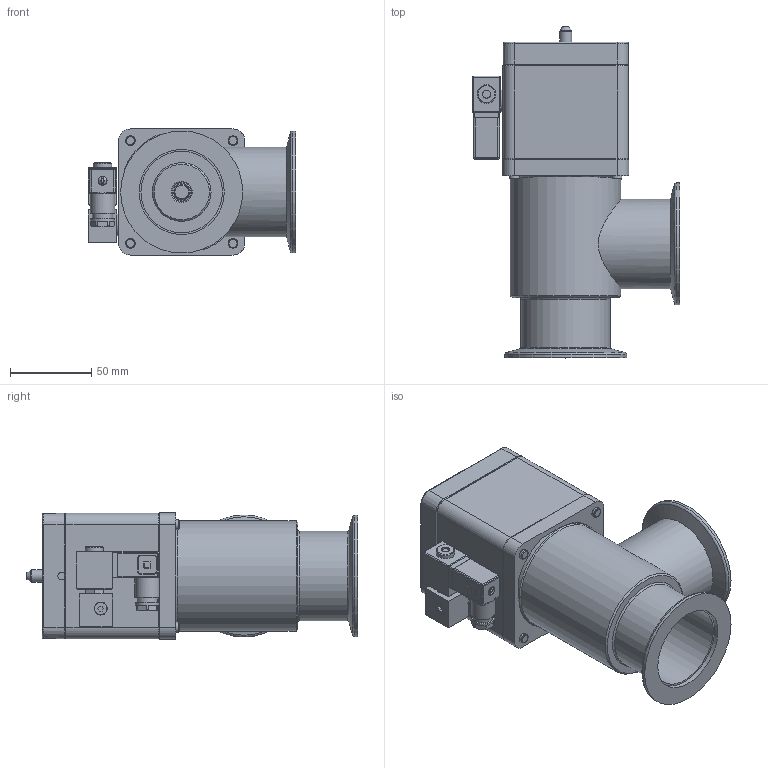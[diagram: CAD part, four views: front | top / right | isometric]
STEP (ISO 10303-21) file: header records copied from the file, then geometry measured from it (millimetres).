
FILE_DESCRIPTION(/* description */ (''),/* implementation_level */ '2;1');
FILE_NAME(/* name */ '1226819453_203.stp',/* time_stamp */ '2013-08-27T07:43:39+02:00',/* author */ (''),/* organization */ (''),/* preprocessor_version */ 'ST-DEVELOPER v11',/* originating_system */ 'SIEMENS PLM Software NX 7.5',/* authorisation */ '');
FILE_SCHEMA (('AP203_CONFIGURATION_CONTROLLED_3D_DESIGN_OF_MECHANICAL_PARTS_AND_ASSEMBLIES_MIM_LF'));
Length unit declared in the file: millimetre
Products named in the file (15): 467882; 437235; 244091.2; 248182.3; 252497.8; 248180.9; 245150; 236204_1.1; 258606.1; 256526.3; 224820.2; N-8501-400.2_MODELNX-ARRAGMNTArrangement 1; 443457; 248179.14; 702565
Assembly tree (18 placements, depth 4):
  702565
    248179.14
      248180.9
      252497.8
      248182.3
    224820.2  x4
    256526.3
    258606.1
    236204_1.1  x2
    245150
    443457
      244091.2
      N-8501-400.2_MODELNX-ARRAGMNTArrangement 1
        437235
        467882
Bounding box: 127.35 x 203.79 x 77.4 mm (x, y, z)
Volume: 385056.6 mm3; surface area: 186027.6 mm2
Topology: 24 solids, 25 shells, 826 faces, 2022 edges, 1304 vertices
Faces by surface type: plane 497, cylinder 162, cone 125, bspline 24, torus 13, sphere 5
Full cylindrical faces by diameter (mm): 2 x1, 2.5 x5, 2.8 x1, 2.95 x1, 3 x5, 4.2 x1, 4.22 x1, 4.6 x1, 4.7 x2, 4.96 x4, 5 x8, 5.5 x1, 5.6 x2, 6 x12, 6.6 x4, 7.4 x2, 7.6 x1, 7.9 x1, 8 x3, 8.175 x1, 9.1 x1, 10 x5, 10.2 x1, 11.3 x1, 11.4 x1, 11.5 x1, 11.975 x3, 12.015 x2, 12.5 x1, 13.5 x1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
Entity records: 26030 total; most frequent: CARTESIAN_POINT 5528, DIRECTION 3514, ORIENTED_EDGE 3364, EDGE_CURVE 1682, AXIS2_PLACEMENT_3D 1247, VERTEX_POINT 1184, EDGE_LOOP 1021, LINE 1020
